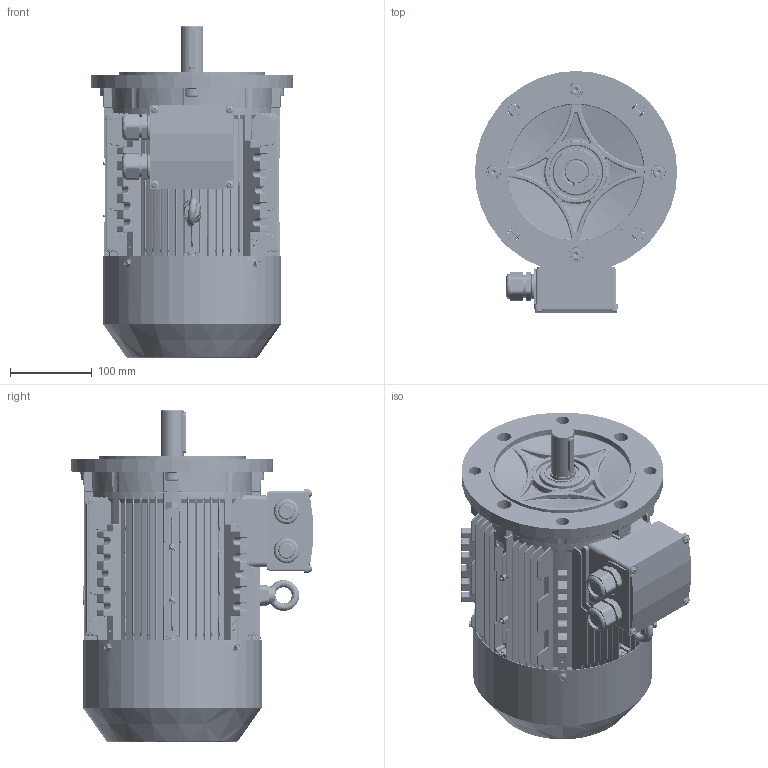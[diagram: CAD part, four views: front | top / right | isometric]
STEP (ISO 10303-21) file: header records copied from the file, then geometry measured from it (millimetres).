
FILE_DESCRIPTION (( 'STEP AP214' ), '1' );
FILE_NAME ('MX3-112_B5.STEP', '2018-07-31T10:58:40', ( '' ), ( '' ), 'SwSTEP 2.0', 'SolidWorks 2012', '' );
FILE_SCHEMA (( 'AUTOMOTIVE_DESIGN' ));
Products named in the file (23): rivets for name plate gb_GB_OTHERRIVETS_TYPE93 2.5X5; DMX-IE3 112B5 flage; DMX-IE3 112  cable glands_1; hexagon flange head tapping screws gb_GB_SQUARE_AND_HEXAGON_TYPE137 ST4.8X9.5 C-N_1; eyebolts gb_GB_FASTENER_SCREWS_FRS M8-N_1; cross recessed pan head screws gb_GB_CROSS_SCREWS_TYPE1 M5X12-12  H type-N_1; DMX-IE3 112terminal box cover_1; DMX-IE3 112terminal box base_1; plain parallel keys_GB_CONNECTING_PIECE_KEYS_CSK 8X50_1; DMX-IE3 112   fan cover_1; hexagon socket head cap screws gb_GB_FASTENER_SCREWS_HSHCS M8X40-N_1; hexagon nuts grade c gb_GB_FASTENER_NUT_SNC1 M8-N_1; spring lock washers--normal type gb_GB_FASTENER_WASHER_SW 8_1; circlips for shaft--type a large gb_GB_CONNECTING_PIECE_RING_RRA 28_1; DMX-IE3 112 fan_1; DMX-IE3 oil seal_1; DMX-IE3 112M4  oil seal_1; deep groove ball bearings gb_Rolling bearings 6206 GB 276-94_1; deep groove ball bearings gb_Rolling bearings 6306 GB 276-94_1; DMX-IE3 112 shield_1; DMX-IE3 112 shaft_1; DMX-IE3 112M4 casing_1; MX3-112_B5
Assembly tree (52 placements, depth 2):
  MX3-112_B5
    DMX-IE3 112M4 casing_1
    DMX-IE3 112 shaft_1
    DMX-IE3 112 shield_1
    deep groove ball bearings gb_Rolling bearings 6306 GB 276-94_1
    deep groove ball bearings gb_Rolling bearings 6206 GB 276-94_1
    DMX-IE3 112M4  oil seal_1
    DMX-IE3 oil seal_1
    DMX-IE3 112 fan_1
    circlips for shaft--type a large gb_GB_CONNECTING_PIECE_RING_RRA 28_1
    spring lock washers--normal type gb_GB_FASTENER_WASHER_SW 8_1  x8
    hexagon nuts grade c gb_GB_FASTENER_NUT_SNC1 M8-N_1  x8
    hexagon socket head cap screws gb_GB_FASTENER_SCREWS_HSHCS M8X40-N_1  x8
    DMX-IE3 112   fan cover_1
    plain parallel keys_GB_CONNECTING_PIECE_KEYS_CSK 8X50_1
    DMX-IE3 112terminal box base_1
    DMX-IE3 112terminal box cover_1
    cross recessed pan head screws gb_GB_CROSS_SCREWS_TYPE1 M5X12-12  H type-N_1  x4
    eyebolts gb_GB_FASTENER_SCREWS_FRS M8-N_1
    hexagon flange head tapping screws gb_GB_SQUARE_AND_HEXAGON_TYPE137 ST4.8X9.5 C-N_1  x5
    DMX-IE3 112  cable glands_1  x2
    DMX-IE3 112B5 flage
    rivets for name plate gb_GB_OTHERRIVETS_TYPE93 2.5X5  x2
Bounding box: 248.1 x 296.65 x 407.25 mm (x, y, z)
Volume: 1678516.1 mm3; surface area: 1370325.5 mm2
Topology: 52 solids, 58 shells, 6444 faces, 16663 edges, 10193 vertices
Faces by surface type: plane 2177, cylinder 1751, bspline 1555, cone 567, torus 264, sphere 130
Entity records: 229123 total; most frequent: CARTESIAN_POINT 96712, ORIENTED_EDGE 29872, DIRECTION 24448, EDGE_CURVE 14939, VERTEX_POINT 9226, AXIS2_PLACEMENT_3D 8964, VECTOR 6520, LINE 6520
